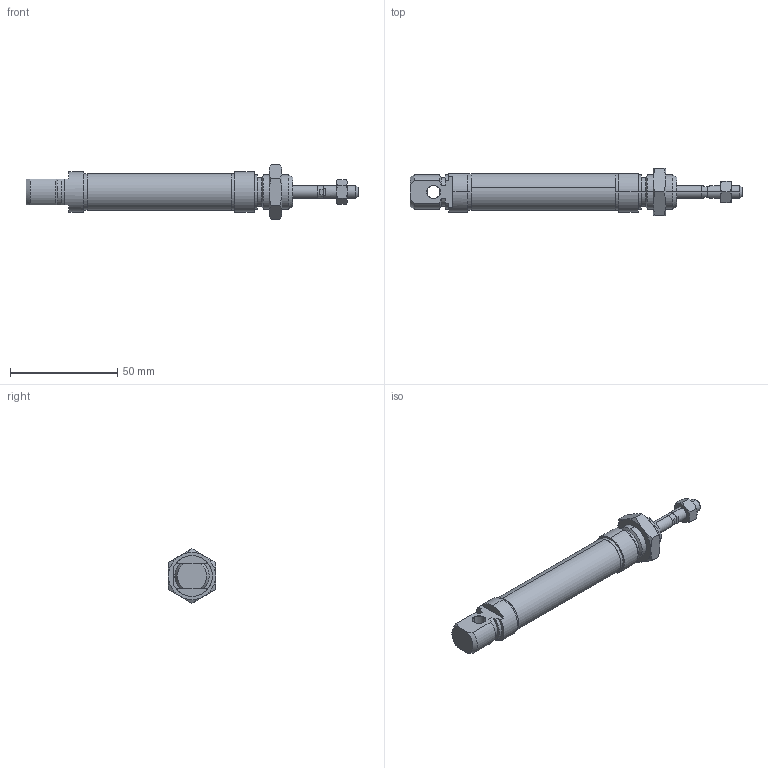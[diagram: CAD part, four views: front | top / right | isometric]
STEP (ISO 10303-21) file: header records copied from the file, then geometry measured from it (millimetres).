
FILE_DESCRIPTION (( 'STEP AP203' ), '1' );
FILE_NAME ('MD0160010A.STEP', '2013-06-20T15:32:45', ( '' ), ( '' ), 'SwSTEP 2.0', 'SolidWorks 2012', '' );
FILE_SCHEMA (( 'CONFIG_CONTROL_DESIGN' ));
Length unit declared in the file: millimetre
Products named in the file (1): MD0160010A
Bounding box: 155 x 22 x 25.4 mm (x, y, z)
Surface area: 10229.3 mm2 (no closed solid volume)
Topology: 0 solids, 7 shells, 143 faces, 348 edges, 220 vertices
Faces by surface type: cone 52, plane 47, cylinder 42, torus 2
Entity records: 4563 total; most frequent: CARTESIAN_POINT 1126, DIRECTION 734, ORIENTED_EDGE 664, EDGE_CURVE 348, AXIS2_PLACEMENT_3D 304, VERTEX_POINT 220, CIRCLE 160, EDGE_LOOP 160
